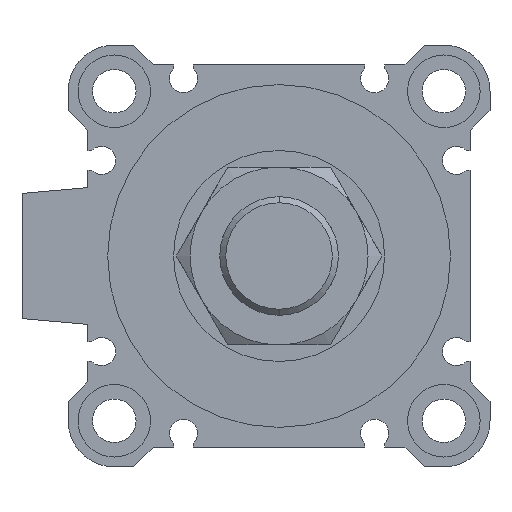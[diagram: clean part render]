
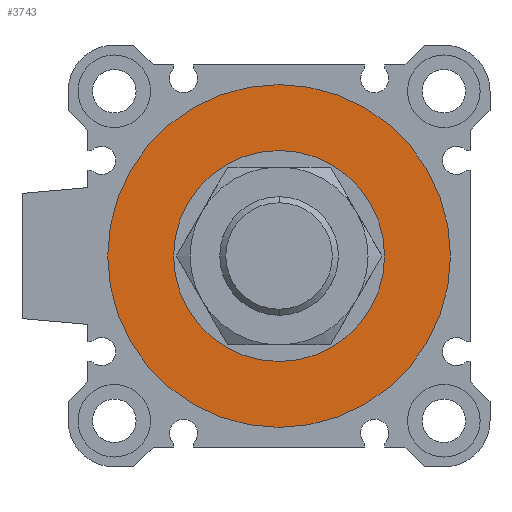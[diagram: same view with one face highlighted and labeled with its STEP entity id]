
A CAD part, left-side view. The second image highlights one B-rep face of the part: STEP entity #3743.
In plain terms, the highlighted planar face has unit normal (-1, 0, 0).
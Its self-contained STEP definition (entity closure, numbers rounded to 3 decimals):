
#57 = CARTESIAN_POINT ( 'NONE',  ( 3., 0., -26. ) ) ;
#232 = DIRECTION ( 'NONE',  ( 1., 0., 0. ) ) ;
#582 = DIRECTION ( 'NONE',  ( 0., 0., -1. ) ) ;
#635 = AXIS2_PLACEMENT_3D ( 'NONE', #5892, #2593, #3720 ) ;
#779 = CARTESIAN_POINT ( 'NONE',  ( 3., 0., 0. ) ) ;
#959 = AXIS2_PLACEMENT_3D ( 'NONE', #779, #232, #4633 ) ;
#1097 = EDGE_CURVE ( 'NONE', #3060, #3231, #4324, .T. ) ;
#1245 = VERTEX_POINT ( 'NONE', #4258 ) ;
#1309 = FACE_BOUND ( 'NONE', #2083, .T. ) ;
#1353 = DIRECTION ( 'NONE',  ( 1., 0., 0. ) ) ;
#1456 = ORIENTED_EDGE ( 'NONE', *, *, #6666, .F. ) ;
#1658 = DIRECTION ( 'NONE',  ( 1., 0., 0. ) ) ;
#1785 = CARTESIAN_POINT ( 'NONE',  ( 3., 0., 0. ) ) ;
#1840 = FACE_OUTER_BOUND ( 'NONE', #5922, .T. ) ;
#2014 = EDGE_CURVE ( 'NONE', #3231, #3060, #6132, .T. ) ;
#2083 = EDGE_LOOP ( 'NONE', ( #4912, #6976 ) ) ;
#2403 = DIRECTION ( 'NONE',  ( 1., 0., 0. ) ) ;
#2593 = DIRECTION ( 'NONE',  ( 1., 0., 0. ) ) ;
#2832 = CIRCLE ( 'NONE', #635, 26. ) ;
#2911 = AXIS2_PLACEMENT_3D ( 'NONE', #1785, #2403, #5233 ) ;
#3060 = VERTEX_POINT ( 'NONE', #3689 ) ;
#3186 = ORIENTED_EDGE ( 'NONE', *, *, #3225, .F. ) ;
#3225 = EDGE_CURVE ( 'NONE', #1245, #3636, #6037, .T. ) ;
#3231 = VERTEX_POINT ( 'NONE', #6836 ) ;
#3636 = VERTEX_POINT ( 'NONE', #57 ) ;
#3683 = DIRECTION ( 'NONE',  ( 0., 0., -1. ) ) ;
#3689 = CARTESIAN_POINT ( 'NONE',  ( 3., 0., 16. ) ) ;
#3720 = DIRECTION ( 'NONE',  ( 0., 0., -1. ) ) ;
#3743 = ADVANCED_FACE ( 'NONE', ( #1840, #1309 ), #5736, .F. ) ;
#4258 = CARTESIAN_POINT ( 'NONE',  ( 3., 0., 26. ) ) ;
#4324 = CIRCLE ( 'NONE', #5581, 16. ) ;
#4633 = DIRECTION ( 'NONE',  ( 0., 1., 0. ) ) ;
#4794 = CARTESIAN_POINT ( 'NONE',  ( 3., 0., 0. ) ) ;
#4912 = ORIENTED_EDGE ( 'NONE', *, *, #1097, .T. ) ;
#5233 = DIRECTION ( 'NONE',  ( 0., 0., -1. ) ) ;
#5581 = AXIS2_PLACEMENT_3D ( 'NONE', #4794, #1353, #3683 ) ;
#5736 = PLANE ( 'NONE',  #959 ) ;
#5892 = CARTESIAN_POINT ( 'NONE',  ( 3., 0., 0. ) ) ;
#5922 = EDGE_LOOP ( 'NONE', ( #3186, #1456 ) ) ;
#6037 = CIRCLE ( 'NONE', #2911, 26. ) ;
#6132 = CIRCLE ( 'NONE', #7185, 16. ) ;
#6645 = CARTESIAN_POINT ( 'NONE',  ( 3., 0., 0. ) ) ;
#6666 = EDGE_CURVE ( 'NONE', #3636, #1245, #2832, .T. ) ;
#6836 = CARTESIAN_POINT ( 'NONE',  ( 3., 0., -16. ) ) ;
#6976 = ORIENTED_EDGE ( 'NONE', *, *, #2014, .T. ) ;
#7185 = AXIS2_PLACEMENT_3D ( 'NONE', #6645, #1658, #582 ) ;
